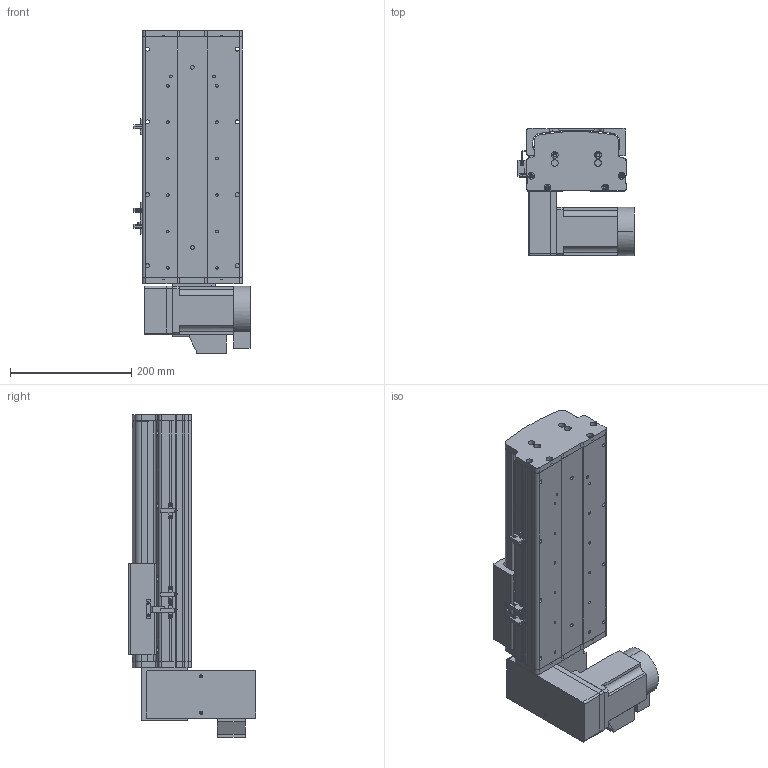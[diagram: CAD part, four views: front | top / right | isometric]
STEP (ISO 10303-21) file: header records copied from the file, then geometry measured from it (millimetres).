
FILE_DESCRIPTION (( 'STEP AP214' ), '1' );
FILE_NAME ('KSD165B-S150-MLD-CM .STEP', '2017-10-16T06:43:33', ( '微软用户' ), ( '微软中国' ), 'SwSTEP 2.0', 'SolidWorks 2014', '' );
FILE_SCHEMA (( 'AUTOMOTIVE_DESIGN' ));
Length unit declared in the file: millimetre
Products named in the file (17): KSD165模组-同步带滑动座-最新版; KSD165B-S150-MLD-CM ; 130宽模组马达安装板连板上下折丝杆同步带; 130宽模组保护罩上下左右折-同步带; HTPA26S5M250-A-H8 750W萇儂蚚; HTPA26S5M250-A-H8 400W萇儂蚚 ; 165宽马达安装板同步带左-改; KSD165模组-同步带防尘盖1-150行程-最新版; KSD165模组同步带底板-150行程-最新; 拸秶雄ん750W侜督萇儂; U倰嫖萇假蚾璃; U倰嫖萇EEㄜSX672; 覜茼え68遵圉猾敕; KSD165模组-同步带-防撞垫2; KSD165模组同步带-防撞垫1; KSD165耀郪-ヶ傷啣1-肮祭湍; KSD165模组-后端板1-同步带
Assembly tree (20 placements, depth 2):
  KSD165B-S150-MLD-CM 
    KSD165模组-同步带滑动座-最新版
    KSD165模组-后端板1-同步带
    KSD165耀郪-ヶ傷啣1-肮祭湍
    KSD165模组同步带-防撞垫1
    KSD165模组-同步带-防撞垫2
    覜茼え68遵圉猾敕
    U倰嫖萇EEㄜSX672  x3
    U倰嫖萇假蚾璃  x3
    拸秶雄ん750W侜督萇儂
    KSD165模组同步带底板-150行程-最新
    KSD165模组-同步带防尘盖1-150行程-最新版
    165宽马达安装板同步带左-改
    HTPA26S5M250-A-H8 400W萇儂蚚 
    HTPA26S5M250-A-H8 750W萇儂蚚
    130宽模组保护罩上下左右折-同步带
    130宽模组马达安装板连板上下折丝杆同步带
Bounding box: 191.2 x 210 x 531 mm (x, y, z)
Volume: 4079759.1 mm3; surface area: 938980.1 mm2
Topology: 21 solids, 22 shells, 1853 faces, 5208 edges, 3396 vertices
Faces by surface type: cylinder 1165, plane 576, cone 112
Entity records: 59064 total; most frequent: CARTESIAN_POINT 12102, DIRECTION 9800, ORIENTED_EDGE 9076, EDGE_CURVE 4538, AXIS2_PLACEMENT_3D 3828, VERTEX_POINT 2988, CIRCLE 2172, LINE 2144
